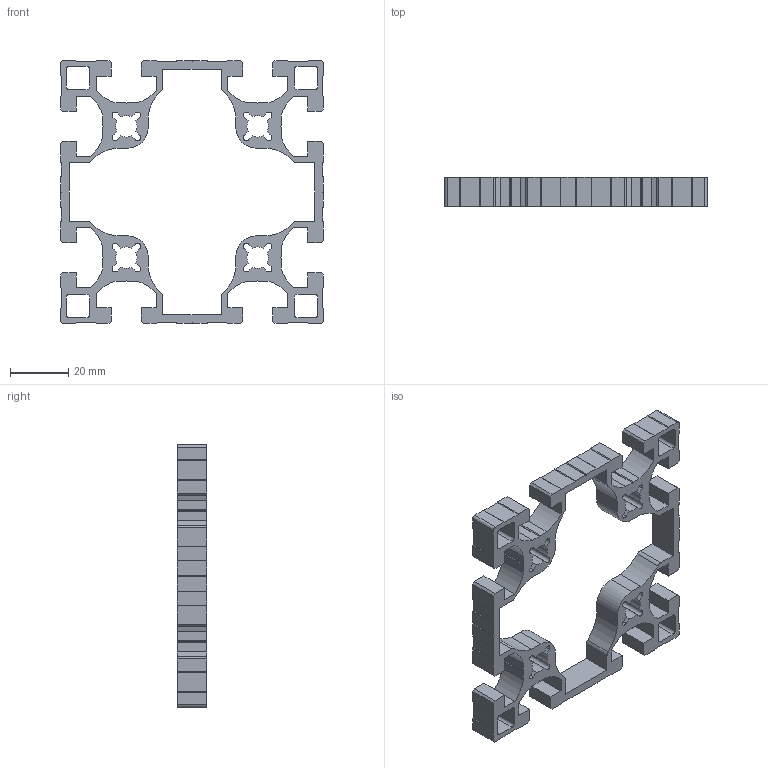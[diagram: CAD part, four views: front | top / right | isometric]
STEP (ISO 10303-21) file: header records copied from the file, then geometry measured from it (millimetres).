
FILE_DESCRIPTION((''),'2;1');
FILE_NAME('PR090090L','2002-12-27T',('Lipro doo'),('Lipro d.o.o.'),'PRO/ENGINEER BY PARAMETRIC TECHNOLOGY CORPORATION, 2001150','PRO/ENGINEER BY PARAMETRIC TECHNOLOGY CORPORATION, 2001150','');
FILE_SCHEMA(('CONFIG_CONTROL_DESIGN'));
Length unit declared in the file: millimetre
Products named in the file (1): PR090090L
Bounding box: 90 x 10 x 90 mm (x, y, z)
Volume: 20139 mm3; surface area: 16993.2 mm2
Topology: 1 solids, 1 shells, 342 faces, 1020 edges, 680 vertices
Faces by surface type: plane 254, cylinder 88
Entity records: 11494 total; most frequent: CARTESIAN_POINT 2042, ORIENTED_EDGE 2040, DIRECTION 1880, EDGE_CURVE 1020, VECTOR 844, LINE 844, VERTEX_POINT 680, AXIS2_PLACEMENT_3D 518
